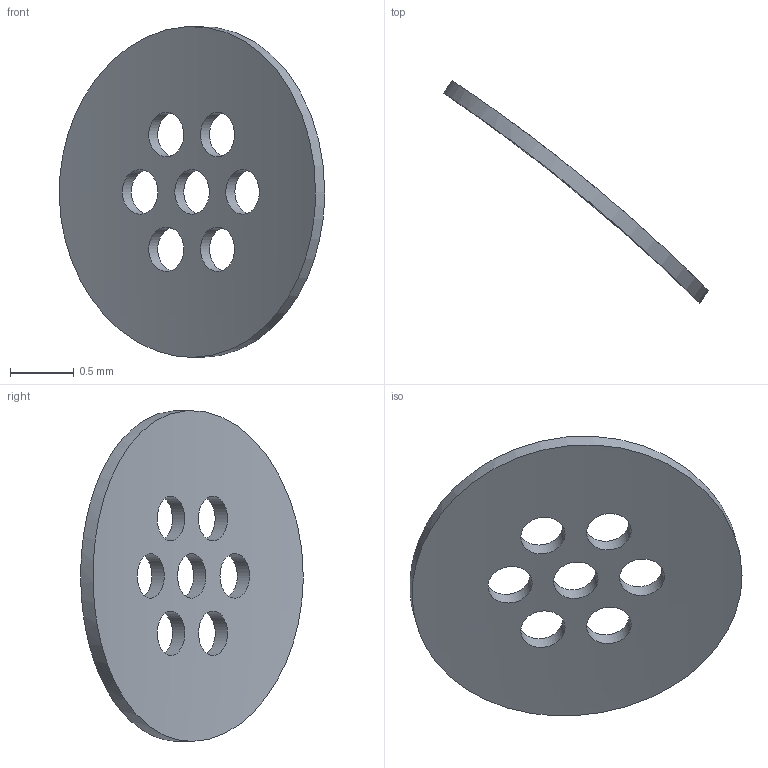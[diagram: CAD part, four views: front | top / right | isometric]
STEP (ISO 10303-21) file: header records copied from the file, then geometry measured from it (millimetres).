
FILE_DESCRIPTION(('FreeCAD Model'),'2;1');
FILE_NAME('Open CASCADE Shape Model','2026-10-23T21:15:58',('FreeCAD'),( 'FreeCAD'),'Open CASCADE STEP processor 7.8','FreeCAD','Unknown');
FILE_SCHEMA(('AUTOMOTIVE_DESIGN { 1 0 10303 214 1 1 1 1 }'));
Length unit declared in the file: millimetre
Products named in the file (1): Open CASCADE STEP translator 7.8 31
Bounding box: 2.08 x 1.75 x 2.6 mm (x, y, z)
Volume: 0.6 mm3; surface area: 11.2 mm2
Topology: 1 solids, 1 shells, 10 faces, 40 edges, 32 vertices
Faces by surface type: cylinder 8, revolution 2
Full cylindrical faces by diameter (mm): 0.35 x7, 2.6 x1
Entity records: 1104 total; most frequent: CARTESIAN_POINT 781, ORIENTED_EDGE 80, EDGE_CURVE 40, B_SPLINE_CURVE_WITH_KNOTS 34, VERTEX_POINT 32, DIRECTION 28, FACE_BOUND 24, EDGE_LOOP 24
